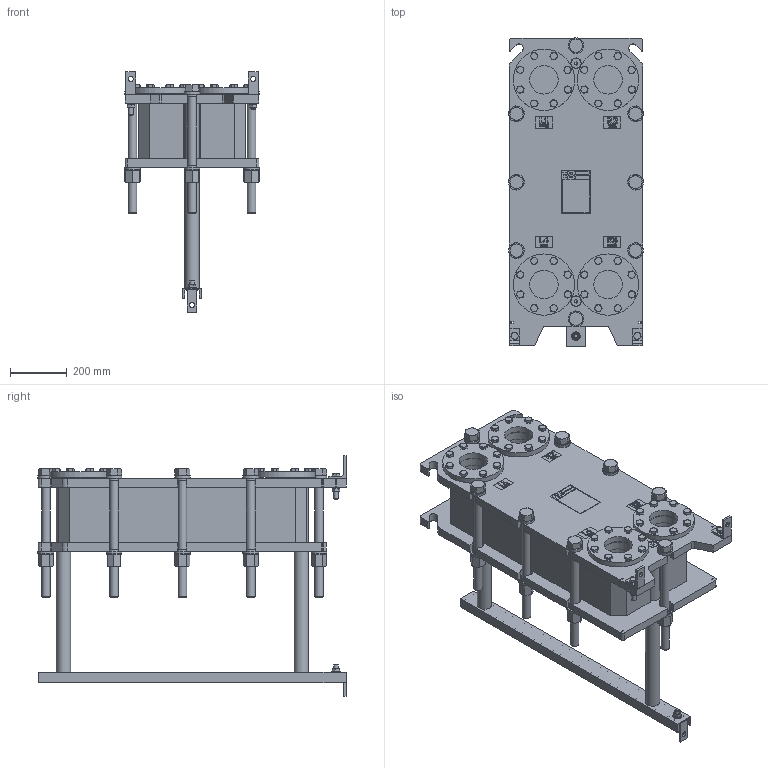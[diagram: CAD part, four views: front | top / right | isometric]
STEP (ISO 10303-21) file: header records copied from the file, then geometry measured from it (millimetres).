
FILE_DESCRIPTION (( 'STEP AP214' ), '1' );
FILE_NAME ('ÏÒ SX100 ðåä.4 ê ñèãìà 5...70.STEP', '2021-04-12T22:19:59', ( '' ), ( '' ), 'SwSTEP 2.0', 'SolidWorks 2018', '' );
FILE_SCHEMA (( 'AUTOMOTIVE_DESIGN' ));
Length unit declared in the file: millimetre
Products named in the file (3): ÏÒ SX100 ðåä.4 ê ñèãìà1; ÏÒ SX100 ðåä.4 ê ñèãìà 5...70; ÏÒ SX100 ðåä.4 ê ñèãìà2 5...70
Assembly tree (2 placements, depth 2):
  ÏÒ SX100 ðåä.4 ê ñèãìà 5...70
    ÏÒ SX100 ðåä.4 ê ñèãìà2 5...70
    ÏÒ SX100 ðåä.4 ê ñèãìà1
Bounding box: 472.88 x 1081.48 x 844 mm (x, y, z)
Volume: 92772281.4 mm3; surface area: 4939278.2 mm2
Topology: 47 solids, 53 shells, 2534 faces, 5973 edges, 3773 vertices
Faces by surface type: plane 1252, cone 661, cylinder 307, bspline 275, torus 39
Full cylindrical faces by diameter (mm): 15 x32, 16 x38, 17 x3, 18 x39, 20 x8, 22 x4, 23 x2, 30 x19, 32 x16, 35.38 x2, 37 x4, 41 x16, 50 x2, 55 x16, 100 x4, 100.01 x4, 102 x8, 130 x4, 215 x4
Entity records: 106394 total; most frequent: CARTESIAN_POINT 25539, ORIENTED_EDGE 10810, DIRECTION 9801, EDGE_CURVE 5405, VERTEX_POINT 3680, AXIS2_PLACEMENT_3D 3582, EDGE_LOOP 3397, FACE_OUTER_BOUND 2798
